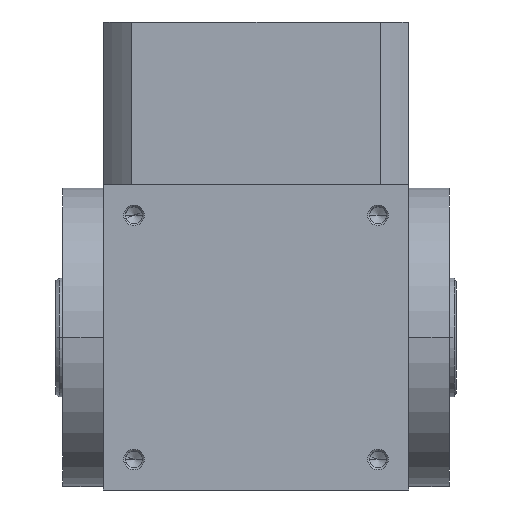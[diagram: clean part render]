
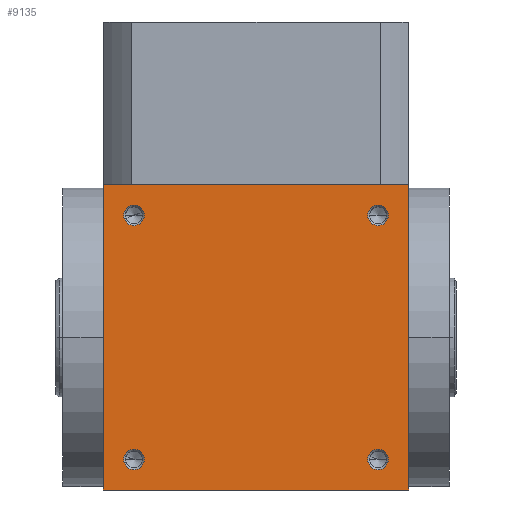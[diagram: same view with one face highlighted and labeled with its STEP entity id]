
A CAD part, front view. The second image highlights one B-rep face of the part: STEP entity #9135.
In plain terms, the highlighted planar face has unit normal (0, -1, 0).
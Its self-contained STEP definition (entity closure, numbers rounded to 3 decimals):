
#84 = DIRECTION ( 'NONE',  ( 1., 0., 0. ) ) ;
#265 = EDGE_LOOP ( 'NONE', ( #3885, #9052 ) ) ;
#384 = DIRECTION ( 'NONE',  ( 0., -1., 0. ) ) ;
#452 = DIRECTION ( 'NONE',  ( -1., 0., 0. ) ) ;
#502 = VERTEX_POINT ( 'NONE', #8130 ) ;
#697 = VECTOR ( 'NONE', #1105, 1000. ) ;
#720 = FACE_BOUND ( 'NONE', #10042, .T. ) ;
#788 = AXIS2_PLACEMENT_3D ( 'NONE', #8906, #894, #6120 ) ;
#789 = VERTEX_POINT ( 'NONE', #7876 ) ;
#894 = DIRECTION ( 'NONE',  ( 0., -1., 0. ) ) ;
#895 = EDGE_LOOP ( 'NONE', ( #3951, #2862 ) ) ;
#916 = EDGE_CURVE ( 'NONE', #5289, #9123, #1048, .T. ) ;
#1048 = LINE ( 'NONE', #4499, #11089 ) ;
#1105 = DIRECTION ( 'NONE',  ( 0., 0., 1. ) ) ;
#1138 = EDGE_CURVE ( 'NONE', #11200, #8101, #5889, .T. ) ;
#1243 = DIRECTION ( 'NONE',  ( 0., -1., 0. ) ) ;
#1278 = VERTEX_POINT ( 'NONE', #7980 ) ;
#1336 = AXIS2_PLACEMENT_3D ( 'NONE', #9162, #384, #452 ) ;
#1393 = AXIS2_PLACEMENT_3D ( 'NONE', #7802, #2555, #6125 ) ;
#1609 = CARTESIAN_POINT ( 'NONE',  ( 49.964, -45.504, -22. ) ) ;
#1644 = CARTESIAN_POINT ( 'NONE',  ( 49.964, -45.504, 68. ) ) ;
#1920 = CIRCLE ( 'NONE', #788, 3.025 ) ;
#2095 = CIRCLE ( 'NONE', #1336, 3.025 ) ;
#2194 = ORIENTED_EDGE ( 'NONE', *, *, #2996, .F. ) ;
#2241 = VECTOR ( 'NONE', #9572, 1000. ) ;
#2248 = EDGE_CURVE ( 'NONE', #7048, #789, #2095, .T. ) ;
#2275 = CARTESIAN_POINT ( 'NONE',  ( -40.036, -45.504, -22. ) ) ;
#2300 = AXIS2_PLACEMENT_3D ( 'NONE', #4015, #8680, #9443 ) ;
#2331 = EDGE_CURVE ( 'NONE', #9123, #6185, #6721, .T. ) ;
#2440 = DIRECTION ( 'NONE',  ( 0., -1., 0. ) ) ;
#2471 = DIRECTION ( 'NONE',  ( 0., -1., 0. ) ) ;
#2555 = DIRECTION ( 'NONE',  ( 0., -1., 0. ) ) ;
#2591 = CARTESIAN_POINT ( 'NONE',  ( -31.036, -45.504, 59. ) ) ;
#2601 = FACE_BOUND ( 'NONE', #6171, .T. ) ;
#2683 = CIRCLE ( 'NONE', #8643, 3.025 ) ;
#2862 = ORIENTED_EDGE ( 'NONE', *, *, #9594, .F. ) ;
#2924 = CARTESIAN_POINT ( 'NONE',  ( 43.989, -45.504, -13. ) ) ;
#2960 = CARTESIAN_POINT ( 'NONE',  ( -40.036, -45.504, -22. ) ) ;
#2996 = EDGE_CURVE ( 'NONE', #789, #7048, #1920, .T. ) ;
#3239 = CIRCLE ( 'NONE', #4736, 3.025 ) ;
#3525 = ORIENTED_EDGE ( 'NONE', *, *, #11417, .F. ) ;
#3594 = CARTESIAN_POINT ( 'NONE',  ( 4.964, -45.504, 23. ) ) ;
#3622 = DIRECTION ( 'NONE',  ( -1., 0., 0. ) ) ;
#3885 = ORIENTED_EDGE ( 'NONE', *, *, #9082, .F. ) ;
#3951 = ORIENTED_EDGE ( 'NONE', *, *, #11504, .F. ) ;
#4015 = CARTESIAN_POINT ( 'NONE',  ( -31.036, -45.504, -13. ) ) ;
#4499 = CARTESIAN_POINT ( 'NONE',  ( 49.964, -45.504, -22. ) ) ;
#4736 = AXIS2_PLACEMENT_3D ( 'NONE', #11380, #7991, #3622 ) ;
#4759 = AXIS2_PLACEMENT_3D ( 'NONE', #11144, #2440, #5190 ) ;
#5078 = EDGE_LOOP ( 'NONE', ( #3525, #8156, #7569, #11401 ) ) ;
#5190 = DIRECTION ( 'NONE',  ( -1., 0., 0. ) ) ;
#5289 = VERTEX_POINT ( 'NONE', #1644 ) ;
#5340 = VERTEX_POINT ( 'NONE', #9003 ) ;
#5714 = EDGE_CURVE ( 'NONE', #1278, #7918, #3239, .T. ) ;
#5808 = CARTESIAN_POINT ( 'NONE',  ( -28.011, -45.504, -13. ) ) ;
#5849 = DIRECTION ( 'NONE',  ( -1., 0., 0. ) ) ;
#5882 = CIRCLE ( 'NONE', #1393, 3.025 ) ;
#5889 = CIRCLE ( 'NONE', #4759, 3.025 ) ;
#6028 = CARTESIAN_POINT ( 'NONE',  ( -40.036, -45.504, 68. ) ) ;
#6120 = DIRECTION ( 'NONE',  ( -1., 0., 0. ) ) ;
#6125 = DIRECTION ( 'NONE',  ( -1., 0., 0. ) ) ;
#6143 = EDGE_CURVE ( 'NONE', #7918, #1278, #5882, .T. ) ;
#6171 = EDGE_LOOP ( 'NONE', ( #8304, #8149 ) ) ;
#6178 = FACE_OUTER_BOUND ( 'NONE', #5078, .T. ) ;
#6185 = VERTEX_POINT ( 'NONE', #2960 ) ;
#6226 = DIRECTION ( 'NONE',  ( -1., 0., 0. ) ) ;
#6695 = CIRCLE ( 'NONE', #9285, 3.025 ) ;
#6721 = LINE ( 'NONE', #2275, #7314 ) ;
#6738 = EDGE_CURVE ( 'NONE', #502, #5289, #7764, .T. ) ;
#7048 = VERTEX_POINT ( 'NONE', #2924 ) ;
#7103 = VERTEX_POINT ( 'NONE', #10261 ) ;
#7314 = VECTOR ( 'NONE', #5849, 1000. ) ;
#7330 = CIRCLE ( 'NONE', #2300, 3.025 ) ;
#7550 = CARTESIAN_POINT ( 'NONE',  ( -31.036, -45.504, 59. ) ) ;
#7569 = ORIENTED_EDGE ( 'NONE', *, *, #916, .F. ) ;
#7764 = LINE ( 'NONE', #6028, #2241 ) ;
#7802 = CARTESIAN_POINT ( 'NONE',  ( 40.964, -45.504, 59. ) ) ;
#7846 = DIRECTION ( 'NONE',  ( 0., 1., 0. ) ) ;
#7876 = CARTESIAN_POINT ( 'NONE',  ( 37.939, -45.504, -13. ) ) ;
#7918 = VERTEX_POINT ( 'NONE', #7957 ) ;
#7957 = CARTESIAN_POINT ( 'NONE',  ( 37.939, -45.504, 59. ) ) ;
#7980 = CARTESIAN_POINT ( 'NONE',  ( 43.989, -45.504, 59. ) ) ;
#7991 = DIRECTION ( 'NONE',  ( 0., -1., 0. ) ) ;
#8015 = ORIENTED_EDGE ( 'NONE', *, *, #2248, .F. ) ;
#8101 = VERTEX_POINT ( 'NONE', #9072 ) ;
#8130 = CARTESIAN_POINT ( 'NONE',  ( -40.036, -45.504, 68. ) ) ;
#8149 = ORIENTED_EDGE ( 'NONE', *, *, #5714, .F. ) ;
#8156 = ORIENTED_EDGE ( 'NONE', *, *, #2331, .F. ) ;
#8304 = ORIENTED_EDGE ( 'NONE', *, *, #6143, .F. ) ;
#8643 = AXIS2_PLACEMENT_3D ( 'NONE', #2591, #2471, #6226 ) ;
#8680 = DIRECTION ( 'NONE',  ( 0., -1., 0. ) ) ;
#8906 = CARTESIAN_POINT ( 'NONE',  ( 40.964, -45.504, -13. ) ) ;
#9003 = CARTESIAN_POINT ( 'NONE',  ( -34.061, -45.504, 59. ) ) ;
#9052 = ORIENTED_EDGE ( 'NONE', *, *, #1138, .F. ) ;
#9072 = CARTESIAN_POINT ( 'NONE',  ( -34.061, -45.504, -13. ) ) ;
#9082 = EDGE_CURVE ( 'NONE', #8101, #11200, #7330, .T. ) ;
#9110 = CARTESIAN_POINT ( 'NONE',  ( -40.036, -45.504, -22. ) ) ;
#9123 = VERTEX_POINT ( 'NONE', #1609 ) ;
#9135 = ADVANCED_FACE ( 'NONE', ( #11530, #9788, #2601, #6178, #720 ), #9717, .F. ) ;
#9162 = CARTESIAN_POINT ( 'NONE',  ( 40.964, -45.504, -13. ) ) ;
#9285 = AXIS2_PLACEMENT_3D ( 'NONE', #7550, #1243, #9359 ) ;
#9359 = DIRECTION ( 'NONE',  ( -1., 0., 0. ) ) ;
#9443 = DIRECTION ( 'NONE',  ( -1., 0., 0. ) ) ;
#9572 = DIRECTION ( 'NONE',  ( 1., 0., 0. ) ) ;
#9594 = EDGE_CURVE ( 'NONE', #7103, #5340, #2683, .T. ) ;
#9686 = DIRECTION ( 'NONE',  ( 0., 0., -1. ) ) ;
#9717 = PLANE ( 'NONE',  #9940 ) ;
#9788 = FACE_BOUND ( 'NONE', #265, .T. ) ;
#9940 = AXIS2_PLACEMENT_3D ( 'NONE', #3594, #7846, #84 ) ;
#9997 = LINE ( 'NONE', #9110, #697 ) ;
#10042 = EDGE_LOOP ( 'NONE', ( #2194, #8015 ) ) ;
#10261 = CARTESIAN_POINT ( 'NONE',  ( -28.011, -45.504, 59. ) ) ;
#11089 = VECTOR ( 'NONE', #9686, 1000. ) ;
#11144 = CARTESIAN_POINT ( 'NONE',  ( -31.036, -45.504, -13. ) ) ;
#11200 = VERTEX_POINT ( 'NONE', #5808 ) ;
#11380 = CARTESIAN_POINT ( 'NONE',  ( 40.964, -45.504, 59. ) ) ;
#11401 = ORIENTED_EDGE ( 'NONE', *, *, #6738, .F. ) ;
#11417 = EDGE_CURVE ( 'NONE', #6185, #502, #9997, .T. ) ;
#11504 = EDGE_CURVE ( 'NONE', #5340, #7103, #6695, .T. ) ;
#11530 = FACE_BOUND ( 'NONE', #895, .T. ) ;
